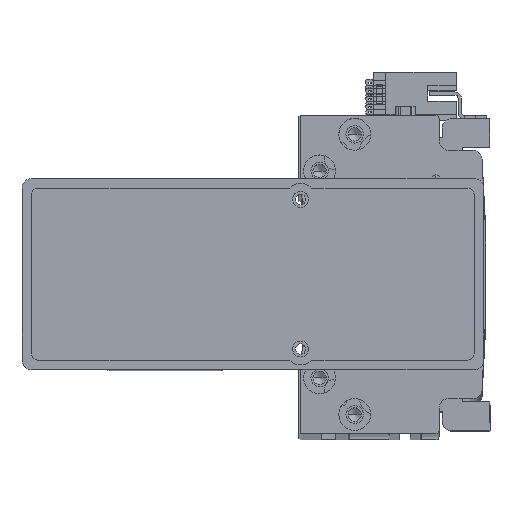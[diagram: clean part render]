
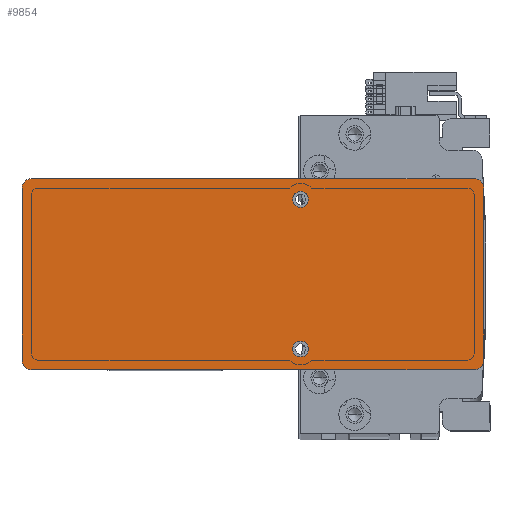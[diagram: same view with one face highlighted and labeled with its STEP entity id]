
A CAD part, top view. The second image highlights one B-rep face of the part: STEP entity #9854.
In plain terms, the highlighted planar face has unit normal (0, 0, 1) as drawn and (0, 0, -1) by its records, which use the part's own axes.
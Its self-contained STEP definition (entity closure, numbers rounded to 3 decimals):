
#284 = CARTESIAN_POINT ( 'NONE',  ( 72.5, 30., 0. ) ) ;
#1284 = ORIENTED_EDGE ( 'NONE', *, *, #4973, .F. ) ;
#1620 = CARTESIAN_POINT ( 'NONE',  ( 15., 23.5, 0. ) ) ;
#1855 = DIRECTION ( 'NONE',  ( 0., 0., -1. ) ) ;
#2019 = AXIS2_PLACEMENT_3D ( 'NONE', #13040, #35020, #16216 ) ;
#2148 = DIRECTION ( 'NONE',  ( 0., 1., 0. ) ) ;
#2867 = CARTESIAN_POINT ( 'NONE',  ( 17.5, -23.5, 0. ) ) ;
#2945 = CIRCLE ( 'NONE', #6025, 3. ) ;
#3221 = ORIENTED_EDGE ( 'NONE', *, *, #15373, .F. ) ;
#3248 = VECTOR ( 'NONE', #22323, 1000. ) ;
#3523 = DIRECTION ( 'NONE',  ( 0., 0., -1. ) ) ;
#3822 = LINE ( 'NONE', #11075, #19627 ) ;
#3895 = DIRECTION ( 'NONE',  ( 1., 0., 0. ) ) ;
#4227 = LINE ( 'NONE', #284, #3248 ) ;
#4773 = DIRECTION ( 'NONE',  ( -1., 0., 0. ) ) ;
#4973 = EDGE_CURVE ( 'NONE', #11603, #5620, #8737, .T. ) ;
#5620 = VERTEX_POINT ( 'NONE', #11808 ) ;
#6025 = AXIS2_PLACEMENT_3D ( 'NONE', #6285, #28293, #9446 ) ;
#6285 = CARTESIAN_POINT ( 'NONE',  ( -69.5, 27., 0. ) ) ;
#6722 = FACE_OUTER_BOUND ( 'NONE', #25851, .T. ) ;
#6893 = CARTESIAN_POINT ( 'NONE',  ( 15., -23.5, 0. ) ) ;
#7963 = AXIS2_PLACEMENT_3D ( 'NONE', #17235, #39172, #20393 ) ;
#8375 = EDGE_CURVE ( 'NONE', #36906, #15034, #22633, .T. ) ;
#8629 = AXIS2_PLACEMENT_3D ( 'NONE', #19634, #22760, #3895 ) ;
#8737 = LINE ( 'NONE', #22280, #32885 ) ;
#8956 = ORIENTED_EDGE ( 'NONE', *, *, #21236, .T. ) ;
#9446 = DIRECTION ( 'NONE',  ( 1., 0., 0. ) ) ;
#9854 = ADVANCED_FACE ( 'NONE', ( #30876, #39177, #6722 ), #13289, .F. ) ;
#10055 = DIRECTION ( 'NONE',  ( -1., 0., 0. ) ) ;
#10252 = EDGE_CURVE ( 'NONE', #40114, #13981, #4227, .T. ) ;
#10277 = CARTESIAN_POINT ( 'NONE',  ( 12.5, 23.5, 0. ) ) ;
#10858 = VECTOR ( 'NONE', #2148, 1000. ) ;
#11075 = CARTESIAN_POINT ( 'NONE',  ( -72.5, -30., 0. ) ) ;
#11221 = ORIENTED_EDGE ( 'NONE', *, *, #14806, .T. ) ;
#11576 = DIRECTION ( 'NONE',  ( 0., 0., -1. ) ) ;
#11603 = VERTEX_POINT ( 'NONE', #19287 ) ;
#11673 = CARTESIAN_POINT ( 'NONE',  ( 17.5, 23.5, 0. ) ) ;
#11808 = CARTESIAN_POINT ( 'NONE',  ( 69.5, -30., 0. ) ) ;
#11867 = LINE ( 'NONE', #21014, #10858 ) ;
#12923 = DIRECTION ( 'NONE',  ( 1., 0., 0. ) ) ;
#13040 = CARTESIAN_POINT ( 'NONE',  ( 69.5, 27., 0. ) ) ;
#13073 = AXIS2_PLACEMENT_3D ( 'NONE', #20727, #1855, #23849 ) ;
#13122 = VERTEX_POINT ( 'NONE', #21166 ) ;
#13289 = PLANE ( 'NONE',  #8629 ) ;
#13981 = VERTEX_POINT ( 'NONE', #17632 ) ;
#14330 = ORIENTED_EDGE ( 'NONE', *, *, #16960, .T. ) ;
#14355 = CIRCLE ( 'NONE', #35828, 2.5 ) ;
#14658 = ORIENTED_EDGE ( 'NONE', *, *, #20655, .F. ) ;
#14718 = CIRCLE ( 'NONE', #32526, 2.5 ) ;
#14806 = EDGE_CURVE ( 'NONE', #24994, #5620, #32460, .T. ) ;
#15034 = VERTEX_POINT ( 'NONE', #2867 ) ;
#15373 = EDGE_CURVE ( 'NONE', #18062, #31203, #14718, .T. ) ;
#15626 = CIRCLE ( 'NONE', #13073, 3. ) ;
#16214 = CARTESIAN_POINT ( 'NONE',  ( 69.5, 30., 0. ) ) ;
#16216 = DIRECTION ( 'NONE',  ( 1., 0., 0. ) ) ;
#16960 = EDGE_CURVE ( 'NONE', #11603, #13122, #15626, .T. ) ;
#17235 = CARTESIAN_POINT ( 'NONE',  ( 69.5, -27., 0. ) ) ;
#17464 = CIRCLE ( 'NONE', #2019, 3. ) ;
#17632 = CARTESIAN_POINT ( 'NONE',  ( -69.5, 30., 0. ) ) ;
#18062 = VERTEX_POINT ( 'NONE', #11673 ) ;
#18553 = EDGE_CURVE ( 'NONE', #40114, #26937, #17464, .T. ) ;
#19287 = CARTESIAN_POINT ( 'NONE',  ( -69.5, -30., 0. ) ) ;
#19627 = VECTOR ( 'NONE', #36260, 1000. ) ;
#19634 = CARTESIAN_POINT ( 'NONE',  ( 0., 0., 0. ) ) ;
#20393 = DIRECTION ( 'NONE',  ( 1., 0., 0. ) ) ;
#20655 = EDGE_CURVE ( 'NONE', #15034, #36906, #14355, .T. ) ;
#20727 = CARTESIAN_POINT ( 'NONE',  ( -69.5, -27., 0. ) ) ;
#21014 = CARTESIAN_POINT ( 'NONE',  ( 72.5, -30., 0. ) ) ;
#21166 = CARTESIAN_POINT ( 'NONE',  ( -72.5, -27., 0. ) ) ;
#21236 = EDGE_CURVE ( 'NONE', #35979, #13981, #2945, .T. ) ;
#21562 = EDGE_CURVE ( 'NONE', #35979, #13122, #3822, .T. ) ;
#22280 = CARTESIAN_POINT ( 'NONE',  ( 72.5, -30., 0. ) ) ;
#22298 = CARTESIAN_POINT ( 'NONE',  ( 72.5, -27., 0. ) ) ;
#22323 = DIRECTION ( 'NONE',  ( -1., 0., 0. ) ) ;
#22400 = CARTESIAN_POINT ( 'NONE',  ( 15., -23.5, 0. ) ) ;
#22633 = CIRCLE ( 'NONE', #38619, 2.5 ) ;
#22760 = DIRECTION ( 'NONE',  ( 0., 0., 1. ) ) ;
#23291 = AXIS2_PLACEMENT_3D ( 'NONE', #30451, #11576, #33573 ) ;
#23628 = DIRECTION ( 'NONE',  ( 0., 0., -1. ) ) ;
#23849 = DIRECTION ( 'NONE',  ( 1., 0., 0. ) ) ;
#24994 = VERTEX_POINT ( 'NONE', #22298 ) ;
#25540 = DIRECTION ( 'NONE',  ( -1., 0., 0. ) ) ;
#25851 = EDGE_LOOP ( 'NONE', ( #39223, #11221, #1284, #14330, #35659, #8956, #35290, #40213 ) ) ;
#26937 = VERTEX_POINT ( 'NONE', #35484 ) ;
#28293 = DIRECTION ( 'NONE',  ( 0., 0., -1. ) ) ;
#28945 = DIRECTION ( 'NONE',  ( 0., 0., -1. ) ) ;
#30451 = CARTESIAN_POINT ( 'NONE',  ( 15., 23.5, 0. ) ) ;
#30876 = FACE_BOUND ( 'NONE', #35836, .T. ) ;
#31203 = VERTEX_POINT ( 'NONE', #10277 ) ;
#31470 = EDGE_CURVE ( 'NONE', #24994, #26937, #11867, .T. ) ;
#32460 = CIRCLE ( 'NONE', #7963, 3. ) ;
#32526 = AXIS2_PLACEMENT_3D ( 'NONE', #1620, #23628, #4773 ) ;
#32641 = CARTESIAN_POINT ( 'NONE',  ( 12.5, -23.5, 0. ) ) ;
#32885 = VECTOR ( 'NONE', #12923, 1000. ) ;
#33188 = CARTESIAN_POINT ( 'NONE',  ( -72.5, 27., 0. ) ) ;
#33573 = DIRECTION ( 'NONE',  ( -1., 0., 0. ) ) ;
#33980 = CIRCLE ( 'NONE', #23291, 2.5 ) ;
#34606 = EDGE_LOOP ( 'NONE', ( #35383, #14658 ) ) ;
#35020 = DIRECTION ( 'NONE',  ( 0., 0., -1. ) ) ;
#35290 = ORIENTED_EDGE ( 'NONE', *, *, #10252, .F. ) ;
#35383 = ORIENTED_EDGE ( 'NONE', *, *, #8375, .F. ) ;
#35484 = CARTESIAN_POINT ( 'NONE',  ( 72.5, 27., 0. ) ) ;
#35659 = ORIENTED_EDGE ( 'NONE', *, *, #21562, .F. ) ;
#35828 = AXIS2_PLACEMENT_3D ( 'NONE', #6893, #28945, #10055 ) ;
#35836 = EDGE_LOOP ( 'NONE', ( #36188, #3221 ) ) ;
#35979 = VERTEX_POINT ( 'NONE', #33188 ) ;
#36188 = ORIENTED_EDGE ( 'NONE', *, *, #38591, .F. ) ;
#36260 = DIRECTION ( 'NONE',  ( 0., -1., 0. ) ) ;
#36906 = VERTEX_POINT ( 'NONE', #32641 ) ;
#38591 = EDGE_CURVE ( 'NONE', #31203, #18062, #33980, .T. ) ;
#38619 = AXIS2_PLACEMENT_3D ( 'NONE', #22400, #3523, #25540 ) ;
#39172 = DIRECTION ( 'NONE',  ( 0., 0., -1. ) ) ;
#39177 = FACE_BOUND ( 'NONE', #34606, .T. ) ;
#39223 = ORIENTED_EDGE ( 'NONE', *, *, #31470, .F. ) ;
#40114 = VERTEX_POINT ( 'NONE', #16214 ) ;
#40213 = ORIENTED_EDGE ( 'NONE', *, *, #18553, .T. ) ;
